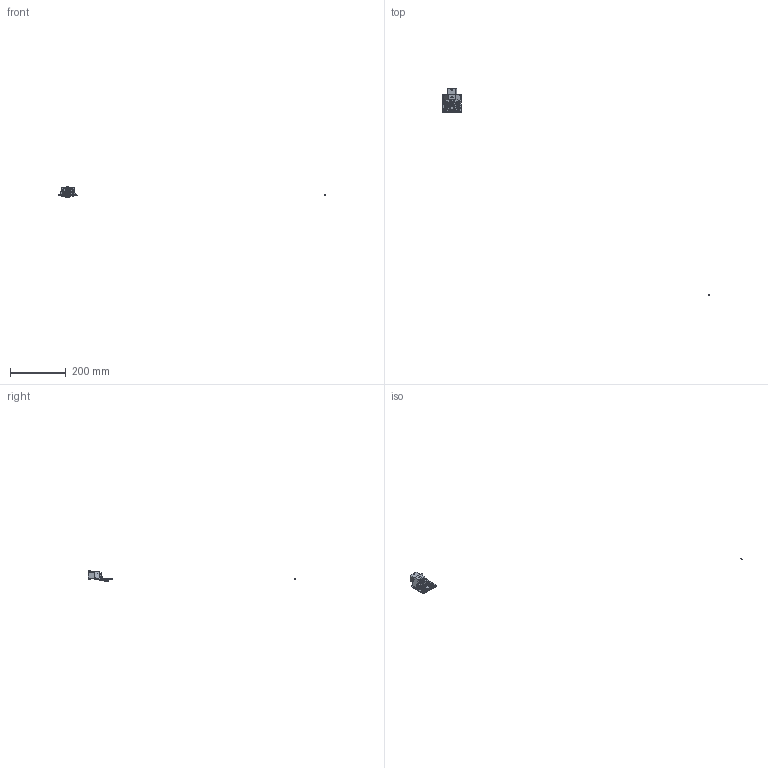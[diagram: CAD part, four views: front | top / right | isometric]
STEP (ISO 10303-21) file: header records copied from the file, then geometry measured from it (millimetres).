
FILE_DESCRIPTION(('KiCad electronic assembly'),'2;1');
FILE_NAME('.step','2026-06-10T23:14:28',('Pcbnew'),('Kicad'), 'Open CASCADE STEP processor 7.9','KiCad to STEP converter','Unknown' );
FILE_SCHEMA(('AUTOMOTIVE_DESIGN { 1 0 10303 214 1 1 1 1 }'));
Length unit declared in the file: millimetre
Products named in the file (78): .step 1; PG-TO252-3_L6.5-W6.2-P4.57-LS10.0-BR-CW-1; R_0402_1005Metric; C_0603_1608Metric; C_0402_1005Metric; L_1210_3225Metric; D_SOD-123; LQFP-100_14x14mm_P0.5mm; LED_0402_1005Metric; SOT-23-6; R_0603_1608Metric; SOT-23-3L_L2.9-W1.6-H1.1-LS2.8-P0.95; SOT-223-4P_L6.5-W3.5-H1.6-LS7.0-P2.30; LED_0603_1608Metric; SOIC-8_3.9x4.9mm_P1.27mm; ST_HLGA-10_2x2mm_P0.5mm_LayoutBorder3x2y; SW_Push_SPST_NO_Alps_SKRK; R_1206_3216Metric; R_Array_Concave_4x0603; R_0805_2012Metric; SOT-23; SOT-363_SC-70-6; D_SOD-323; Fuse_1206_3216Metric; HTSSOP-28_L9.7-W4.4-P0.65-LS6.4-BL-EP; CONN-TH_B4B-PH-K-S-LF-SN; D_SMA; TSSOP-14_4.4x5mm_P0.65mm; SOT-323_SC-70; L_0603_1608Metric; CONN-TH_643340100; D_SMB; SOIC-8-1EP_3.9x4.9mm_P1.27mm_EP2.29x3mm; IND-SMD_L5.4-W5.2-H3.0; Crystal_SMD_5032-2Pin_5.0x3.2mm; MSOP-10_L3.0-W3.0-H1.1-LS5.0-P0.50; D_SMC; TF-SMD_TF-004; BAT-SMD_CR1220-2; PROLT_V2_PCB
Assembly tree (228 placements, depth 3):
  .step 1
    PG-TO252-3_L6.5-W6.2-P4.57-LS10.0-BR-CW-1  x4
      PG-TO252-3_L6.5-W6.2-P4.57-LS10.0-BR-CW-1
    R_0402_1005Metric  x45
      R_0402_1005Metric
    C_0603_1608Metric  x15
      C_0603_1608Metric
    C_0402_1005Metric  x45
      C_0402_1005Metric
    L_1210_3225Metric
      L_1210_3225Metric
    D_SOD-123  x4
      D_SOD-123
    LQFP-100_14x14mm_P0.5mm
      LQFP-100_14x14mm_P0.5mm
    LED_0402_1005Metric  x4
      LED_0402_1005Metric
    SOT-23-6  x3
      SOT-23-6
    R_0603_1608Metric  x5
      R_0603_1608Metric
    SOT-23-3L_L2.9-W1.6-H1.1-LS2.8-P0.95  x4
      SOT-23-3L_L2.9-W1.6-H1.1-LS2.8-P0.95
    SOT-223-4P_L6.5-W3.5-H1.6-LS7.0-P2.30
      SOT-223-4P_L6.5-W3.5-H1.6-LS7.0-P2.30
    LED_0603_1608Metric  x6
      LED_0603_1608Metric
    SOIC-8_3.9x4.9mm_P1.27mm  x5
      SOIC-8_3.9x4.9mm_P1.27mm
    ST_HLGA-10_2x2mm_P0.5mm_LayoutBorder3x2y
      ST_HLGA-10_2x2mm_P0.5mm_LayoutBorder3x2y
    SW_Push_SPST_NO_Alps_SKRK  x2
      SW_Push_SPST_NO_Alps_SKRK
    R_1206_3216Metric  x8
      R_1206_3216Metric
    R_Array_Concave_4x0603  x9
      R_Array_Concave_4x0603
    R_0805_2012Metric
      R_0805_2012Metric
    SOT-23
      SOT-23
    SOT-363_SC-70-6  x2
      SOT-363_SC-70-6
    D_SOD-323  x3
      D_SOD-323
    Fuse_1206_3216Metric  x2
      Fuse_1206_3216Metric
    HTSSOP-28_L9.7-W4.4-P0.65-LS6.4-BL-EP
      HTSSOP-28_L9.7-W4.4-P0.65-LS6.4-BL-EP
    CONN-TH_B4B-PH-K-S-LF-SN
      CONN-TH_B4B-PH-K-S-LF-SN
    D_SMA
      D_SMA
    TSSOP-14_4.4x5mm_P0.65mm  x2
      TSSOP-14_4.4x5mm_P0.65mm
    SOT-323_SC-70
      SOT-323_SC-70
    L_0603_1608Metric
      L_0603_1608Metric
    CONN-TH_643340100
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Bounding box: 960.8 x 743.42 x 35.93 mm (x, y, z)
Volume: 35765.6 mm3; surface area: 33324.5 mm2
Topology: 291 solids, 291 shells, 15979 faces, 42668 edges, 27666 vertices
Faces by surface type: plane 10364, cylinder 3731, bspline 1732, sphere 76, torus 72, revolution 2, cone 2
Full cylindrical faces by diameter (mm): 0.2 x1, 0.3 x12, 0.9 x4, 0.991 x3, 1.2 x32, 1.5 x2, 1.8 x2, 2.2 x4, 4 x2
Entity records: 338243 total; most frequent: CARTESIAN_POINT 69354, ORIENTED_EDGE 44383, DIRECTION 37835, EDGE_CURVE 22189, LINE 16487, VECTOR 16487, VERTEX_POINT 14289, AXIS2_PLACEMENT_3D 10673
